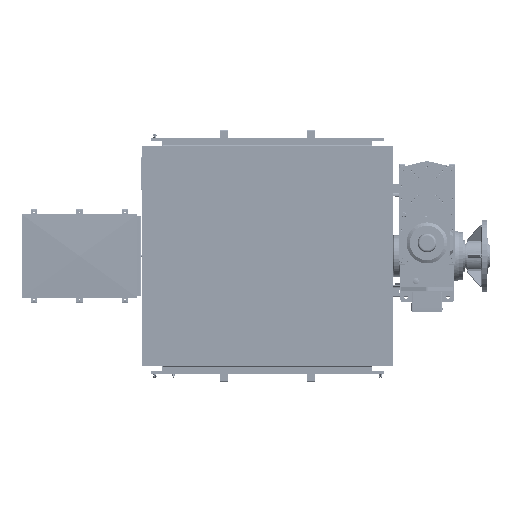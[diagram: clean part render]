
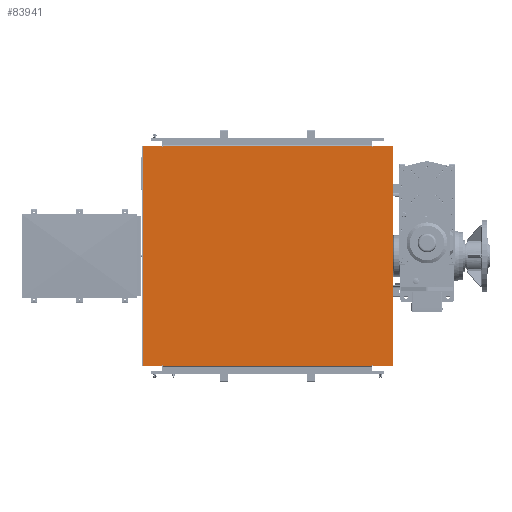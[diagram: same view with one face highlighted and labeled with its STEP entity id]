
A CAD part, front view. The second image highlights one B-rep face of the part: STEP entity #83941.
In plain terms, the highlighted planar face has unit normal (0, -1, 0).
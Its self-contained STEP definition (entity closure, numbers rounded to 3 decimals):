
#4934=PLANE('',#89153);
#7355=FACE_OUTER_BOUND('',#12371,.T.);
#12371=EDGE_LOOP('',(#56034,#56035,#56036,#56037,#56038,#56039,#56040,#56041,
#56042,#56043,#56044,#56045,#56046,#56047,#56048,#56049,#56050,#56051,#56052,
#56053,#56054,#56055,#56056,#56057));
#18921=LINE('',#120949,#25256);
#18925=LINE('',#120958,#25260);
#18926=LINE('',#120962,#25261);
#18932=LINE('',#120973,#25267);
#18933=LINE('',#120976,#25268);
#18936=LINE('',#120983,#25271);
#18940=LINE('',#120991,#25275);
#18944=LINE('',#120999,#25279);
#18956=LINE('',#121025,#25291);
#18957=LINE('',#121029,#25292);
#18963=LINE('',#121040,#25298);
#18964=LINE('',#121043,#25299);
#18967=LINE('',#121050,#25302);
#18971=LINE('',#121058,#25306);
#18975=LINE('',#121066,#25310);
#18987=LINE('',#121092,#25322);
#19076=LINE('',#121316,#25411);
#19078=LINE('',#121324,#25413);
#19089=LINE('',#121344,#25424);
#19090=LINE('',#121351,#25425);
#25256=VECTOR('',#98598,1396.);
#25260=VECTOR('',#98604,1396.);
#25261=VECTOR('',#98607,1.984);
#25267=VECTOR('',#98615,0.992);
#25268=VECTOR('',#98618,3.992);
#25271=VECTOR('',#98623,1.984);
#25275=VECTOR('',#98629,3.992);
#25279=VECTOR('',#98635,0.992);
#25291=VECTOR('',#98659,1336.);
#25292=VECTOR('',#98662,1.984);
#25298=VECTOR('',#98670,0.992);
#25299=VECTOR('',#98673,3.992);
#25302=VECTOR('',#98678,1.984);
#25306=VECTOR('',#98684,3.992);
#25310=VECTOR('',#98690,0.992);
#25322=VECTOR('',#98714,1336.);
#25411=VECTOR('',#98959,123.016);
#25413=VECTOR('',#98969,123.016);
#25424=VECTOR('',#98988,123.016);
#25425=VECTOR('',#98999,123.016);
#31028=CIRCLE('',#89144,3.);
#31030=CIRCLE('',#89148,3.);
#31032=CIRCLE('',#89152,3.);
#31033=CIRCLE('',#89154,3.);
#34855=VERTEX_POINT('',#120943);
#34857=VERTEX_POINT('',#120947);
#34859=VERTEX_POINT('',#120952);
#34861=VERTEX_POINT('',#120956);
#34862=VERTEX_POINT('',#120960);
#34863=VERTEX_POINT('',#120961);
#34867=VERTEX_POINT('',#120970);
#34868=VERTEX_POINT('',#120975);
#34870=VERTEX_POINT('',#120981);
#34871=VERTEX_POINT('',#120982);
#34874=VERTEX_POINT('',#120990);
#34877=VERTEX_POINT('',#120997);
#34886=VERTEX_POINT('',#121027);
#34887=VERTEX_POINT('',#121028);
#34891=VERTEX_POINT('',#121037);
#34892=VERTEX_POINT('',#121042);
#34894=VERTEX_POINT('',#121048);
#34895=VERTEX_POINT('',#121049);
#34898=VERTEX_POINT('',#121057);
#34901=VERTEX_POINT('',#121064);
#34965=VERTEX_POINT('',#121309);
#34967=VERTEX_POINT('',#121321);
#34972=VERTEX_POINT('',#121337);
#34974=VERTEX_POINT('',#121349);
#43043=EDGE_CURVE('',#34855,#34857,#18921,.T.);
#43047=EDGE_CURVE('',#34859,#34861,#18925,.T.);
#43048=EDGE_CURVE('',#34862,#34863,#18926,.T.);
#43054=EDGE_CURVE('',#34867,#34862,#18932,.T.);
#43055=EDGE_CURVE('',#34863,#34868,#18933,.T.);
#43058=EDGE_CURVE('',#34870,#34871,#18936,.T.);
#43062=EDGE_CURVE('',#34874,#34870,#18940,.T.);
#43066=EDGE_CURVE('',#34871,#34877,#18944,.T.);
#43080=EDGE_CURVE('',#34877,#34867,#18956,.T.);
#43081=EDGE_CURVE('',#34886,#34887,#18957,.T.);
#43087=EDGE_CURVE('',#34891,#34886,#18963,.T.);
#43088=EDGE_CURVE('',#34887,#34892,#18964,.T.);
#43091=EDGE_CURVE('',#34894,#34895,#18967,.T.);
#43095=EDGE_CURVE('',#34898,#34894,#18971,.T.);
#43099=EDGE_CURVE('',#34895,#34901,#18975,.T.);
#43113=EDGE_CURVE('',#34901,#34891,#18987,.T.);
#43226=EDGE_CURVE('',#34965,#34874,#19076,.T.);
#43228=EDGE_CURVE('',#34965,#34861,#31028,.T.);
#43230=EDGE_CURVE('',#34892,#34967,#19078,.T.);
#43237=EDGE_CURVE('',#34859,#34967,#31030,.T.);
#43243=EDGE_CURVE('',#34972,#34898,#19089,.T.);
#43245=EDGE_CURVE('',#34972,#34857,#31032,.T.);
#43246=EDGE_CURVE('',#34855,#34974,#31033,.T.);
#43247=EDGE_CURVE('',#34868,#34974,#19090,.T.);
#56034=ORIENTED_EDGE('',*,*,#43246,.F.);
#56035=ORIENTED_EDGE('',*,*,#43043,.T.);
#56036=ORIENTED_EDGE('',*,*,#43245,.F.);
#56037=ORIENTED_EDGE('',*,*,#43243,.T.);
#56038=ORIENTED_EDGE('',*,*,#43095,.T.);
#56039=ORIENTED_EDGE('',*,*,#43091,.T.);
#56040=ORIENTED_EDGE('',*,*,#43099,.T.);
#56041=ORIENTED_EDGE('',*,*,#43113,.T.);
#56042=ORIENTED_EDGE('',*,*,#43087,.T.);
#56043=ORIENTED_EDGE('',*,*,#43081,.T.);
#56044=ORIENTED_EDGE('',*,*,#43088,.T.);
#56045=ORIENTED_EDGE('',*,*,#43230,.T.);
#56046=ORIENTED_EDGE('',*,*,#43237,.F.);
#56047=ORIENTED_EDGE('',*,*,#43047,.T.);
#56048=ORIENTED_EDGE('',*,*,#43228,.F.);
#56049=ORIENTED_EDGE('',*,*,#43226,.T.);
#56050=ORIENTED_EDGE('',*,*,#43062,.T.);
#56051=ORIENTED_EDGE('',*,*,#43058,.T.);
#56052=ORIENTED_EDGE('',*,*,#43066,.T.);
#56053=ORIENTED_EDGE('',*,*,#43080,.T.);
#56054=ORIENTED_EDGE('',*,*,#43054,.T.);
#56055=ORIENTED_EDGE('',*,*,#43048,.T.);
#56056=ORIENTED_EDGE('',*,*,#43055,.T.);
#56057=ORIENTED_EDGE('',*,*,#43247,.T.);
#83941=ADVANCED_FACE('',(#7355),#4934,.F.);
#89144=AXIS2_PLACEMENT_3D('',#121319,#98964,#98965);
#89148=AXIS2_PLACEMENT_3D('',#121334,#98979,#98980);
#89152=AXIS2_PLACEMENT_3D('',#121347,#98993,#98994);
#89153=AXIS2_PLACEMENT_3D('',#121348,#98995,#98996);
#89154=AXIS2_PLACEMENT_3D('',#121350,#98997,#98998);
#98598=DIRECTION('',(0.,0.,1.));
#98604=DIRECTION('',(0.,0.,-1.));
#98607=DIRECTION('',(1.,0.,0.));
#98615=DIRECTION('',(0.,0.,1.));
#98618=DIRECTION('',(0.,0.,-1.));
#98623=DIRECTION('',(1.,0.,0.));
#98629=DIRECTION('',(0.,0.,1.));
#98635=DIRECTION('',(0.,0.,-1.));
#98659=DIRECTION('',(1.,0.,0.));
#98662=DIRECTION('',(-1.,0.,0.));
#98670=DIRECTION('',(0.,0.,-1.));
#98673=DIRECTION('',(0.,0.,1.));
#98678=DIRECTION('',(-1.,0.,0.));
#98684=DIRECTION('',(0.,0.,-1.));
#98690=DIRECTION('',(0.,0.,1.));
#98714=DIRECTION('',(-1.,0.,0.));
#98959=DIRECTION('',(1.,0.,0.));
#98964=DIRECTION('center_axis',(0.,1.,0.));
#98965=DIRECTION('ref_axis',(-0.707,0.,-0.707));
#98969=DIRECTION('',(-1.,0.,0.));
#98979=DIRECTION('center_axis',(0.,1.,0.));
#98980=DIRECTION('ref_axis',(-0.707,0.,0.707));
#98988=DIRECTION('',(-1.,0.,0.));
#98993=DIRECTION('center_axis',(0.,1.,0.));
#98994=DIRECTION('ref_axis',(0.707,0.,0.707));
#98995=DIRECTION('center_axis',(0.,1.,0.));
#98996=DIRECTION('ref_axis',(-1.,0.,0.));
#98997=DIRECTION('center_axis',(0.,1.,0.));
#98998=DIRECTION('ref_axis',(0.707,0.,-0.707));
#98999=DIRECTION('',(1.,0.,0.));
#120943=CARTESIAN_POINT('',(-347.482,-966.659,-273.387));
#120947=CARTESIAN_POINT('',(-347.482,-966.659,1122.613));
#120949=CARTESIAN_POINT('',(-347.482,-966.659,-276.387));
#120952=CARTESIAN_POINT('',(-1939.482,-966.659,1122.613));
#120956=CARTESIAN_POINT('',(-1939.482,-966.659,-273.387));
#120958=CARTESIAN_POINT('',(-1939.482,-966.659,1125.613));
#120960=CARTESIAN_POINT('',(-475.482,-966.659,-272.395));
#120961=CARTESIAN_POINT('',(-473.499,-966.659,-272.395));
#120962=CARTESIAN_POINT('',(-809.482,-966.659,-272.395));
#120970=CARTESIAN_POINT('',(-475.482,-966.659,-273.387));
#120973=CARTESIAN_POINT('',(-475.482,-966.659,74.113));
#120975=CARTESIAN_POINT('',(-473.499,-966.659,-276.387));
#120976=CARTESIAN_POINT('',(-473.499,-966.659,76.109));
#120981=CARTESIAN_POINT('',(-1813.466,-966.659,-272.395));
#120982=CARTESIAN_POINT('',(-1811.482,-966.659,-272.395));
#120983=CARTESIAN_POINT('',(-1478.474,-966.659,-272.395));
#120990=CARTESIAN_POINT('',(-1813.466,-966.659,-276.387));
#120991=CARTESIAN_POINT('',(-1813.466,-966.659,74.113));
#120997=CARTESIAN_POINT('',(-1811.482,-966.659,-273.387));
#120999=CARTESIAN_POINT('',(-1811.482,-966.659,76.109));
#121025=CARTESIAN_POINT('',(-1477.482,-966.659,-273.387));
#121027=CARTESIAN_POINT('',(-1811.482,-966.659,1121.621));
#121028=CARTESIAN_POINT('',(-1813.466,-966.659,1121.621));
#121029=CARTESIAN_POINT('',(-1477.482,-966.659,1121.621));
#121037=CARTESIAN_POINT('',(-1811.482,-966.659,1122.613));
#121040=CARTESIAN_POINT('',(-1811.482,-966.659,775.113));
#121042=CARTESIAN_POINT('',(-1813.466,-966.659,1125.613));
#121043=CARTESIAN_POINT('',(-1813.466,-966.659,773.117));
#121048=CARTESIAN_POINT('',(-473.499,-966.659,1121.621));
#121049=CARTESIAN_POINT('',(-475.482,-966.659,1121.621));
#121050=CARTESIAN_POINT('',(-808.49,-966.659,1121.621));
#121057=CARTESIAN_POINT('',(-473.499,-966.659,1125.613));
#121058=CARTESIAN_POINT('',(-473.499,-966.659,775.113));
#121064=CARTESIAN_POINT('',(-475.482,-966.659,1122.613));
#121066=CARTESIAN_POINT('',(-475.482,-966.659,773.117));
#121092=CARTESIAN_POINT('',(-809.482,-966.659,1122.613));
#121309=CARTESIAN_POINT('',(-1936.482,-966.659,-276.387));
#121316=CARTESIAN_POINT('',(-1939.482,-966.659,-276.387));
#121319=CARTESIAN_POINT('Origin',(-1936.482,-966.659,-273.387));
#121321=CARTESIAN_POINT('',(-1936.482,-966.659,1125.613));
#121324=CARTESIAN_POINT('',(-347.482,-966.659,1125.613));
#121334=CARTESIAN_POINT('Origin',(-1936.482,-966.659,1122.613));
#121337=CARTESIAN_POINT('',(-350.482,-966.659,1125.613));
#121344=CARTESIAN_POINT('',(-347.482,-966.659,1125.613));
#121347=CARTESIAN_POINT('Origin',(-350.482,-966.659,1122.613));
#121348=CARTESIAN_POINT('Origin',(-1143.482,-966.659,424.613));
#121349=CARTESIAN_POINT('',(-350.482,-966.659,-276.387));
#121350=CARTESIAN_POINT('Origin',(-350.482,-966.659,-273.387));
#121351=CARTESIAN_POINT('',(-1939.482,-966.659,-276.387));
